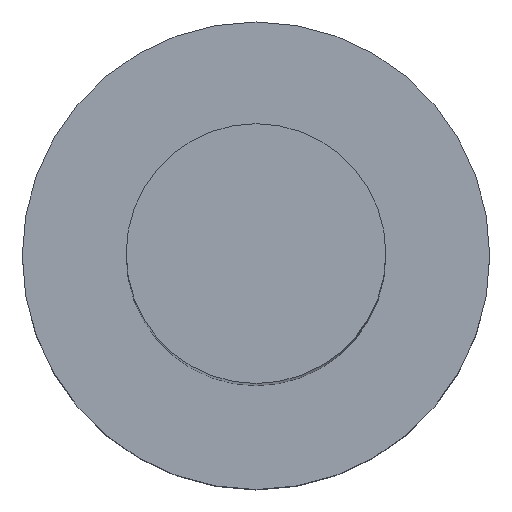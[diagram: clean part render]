
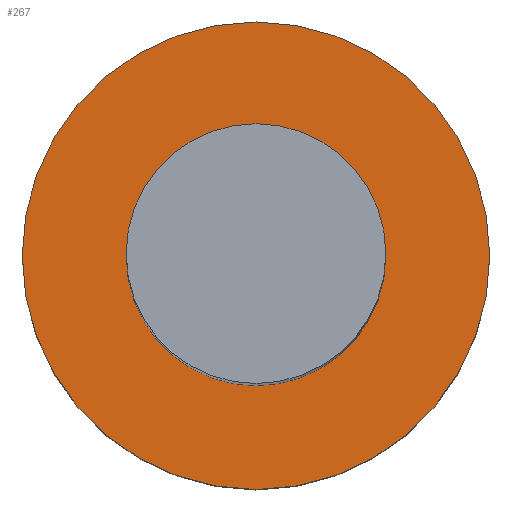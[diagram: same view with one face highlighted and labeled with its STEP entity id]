
A CAD part, top view. The second image highlights one B-rep face of the part: STEP entity #267.
In plain terms, the highlighted planar face has unit normal (0, 0, 1).
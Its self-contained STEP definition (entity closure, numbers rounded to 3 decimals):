
#24 = VERTEX_POINT('',#25);
#25 = CARTESIAN_POINT('',(18.75,-16.969,-14.));
#32 = CYLINDRICAL_SURFACE('',#33,2.25);
#33 = AXIS2_PLACEMENT_3D('',#34,#35,#36);
#34 = CARTESIAN_POINT('',(16.5,-16.969,-16.5));
#35 = DIRECTION('',(-0.,-0.,-1.));
#36 = DIRECTION('',(1.,0.,0.));
#51 = EDGE_CURVE('',#24,#24,#52,.T.);
#52 = SURFACE_CURVE('',#53,(#58,#65),.PCURVE_S1.);
#53 = CIRCLE('',#54,2.25);
#54 = AXIS2_PLACEMENT_3D('',#55,#56,#57);
#55 = CARTESIAN_POINT('',(16.5,-16.969,-14.));
#56 = DIRECTION('',(0.,0.,1.));
#57 = DIRECTION('',(1.,0.,0.));
#58 = PCURVE('',#32,#59);
#59 = DEFINITIONAL_REPRESENTATION('',(#60),#64);
#60 = LINE('',#61,#62);
#61 = CARTESIAN_POINT('',(-0.,-2.5));
#62 = VECTOR('',#63,1.);
#63 = DIRECTION('',(-1.,0.));
#64 = ( GEOMETRIC_REPRESENTATION_CONTEXT(2) 
PARAMETRIC_REPRESENTATION_CONTEXT() REPRESENTATION_CONTEXT('2D SPACE',''
  ) );
#65 = PCURVE('',#66,#71);
#66 = PLANE('',#67);
#67 = AXIS2_PLACEMENT_3D('',#68,#69,#70);
#68 = CARTESIAN_POINT('',(16.5,-16.969,-14.));
#69 = DIRECTION('',(0.,0.,1.));
#70 = DIRECTION('',(1.,0.,-0.));
#71 = DEFINITIONAL_REPRESENTATION('',(#72),#76);
#72 = CIRCLE('',#73,2.25);
#73 = AXIS2_PLACEMENT_2D('',#74,#75);
#74 = CARTESIAN_POINT('',(0.,0.));
#75 = DIRECTION('',(1.,0.));
#76 = ( GEOMETRIC_REPRESENTATION_CONTEXT(2) 
PARAMETRIC_REPRESENTATION_CONTEXT() REPRESENTATION_CONTEXT('2D SPACE',''
  ) );
#267 = ADVANCED_FACE('',(#268,#271),#66,.T.);
#268 = FACE_BOUND('',#269,.T.);
#269 = EDGE_LOOP('',(#270));
#270 = ORIENTED_EDGE('',*,*,#51,.T.);
#271 = FACE_BOUND('',#272,.T.);
#272 = EDGE_LOOP('',(#273));
#273 = ORIENTED_EDGE('',*,*,#274,.F.);
#274 = EDGE_CURVE('',#275,#275,#277,.T.);
#275 = VERTEX_POINT('',#276);
#276 = CARTESIAN_POINT('',(17.75,-16.969,-14.));
#277 = SURFACE_CURVE('',#278,(#283,#290),.PCURVE_S1.);
#278 = CIRCLE('',#279,1.25);
#279 = AXIS2_PLACEMENT_3D('',#280,#281,#282);
#280 = CARTESIAN_POINT('',(16.5,-16.969,-14.));
#281 = DIRECTION('',(0.,0.,1.));
#282 = DIRECTION('',(1.,0.,0.));
#283 = PCURVE('',#66,#284);
#284 = DEFINITIONAL_REPRESENTATION('',(#285),#289);
#285 = CIRCLE('',#286,1.25);
#286 = AXIS2_PLACEMENT_2D('',#287,#288);
#287 = CARTESIAN_POINT('',(0.,0.));
#288 = DIRECTION('',(1.,0.));
#289 = ( GEOMETRIC_REPRESENTATION_CONTEXT(2) 
PARAMETRIC_REPRESENTATION_CONTEXT() REPRESENTATION_CONTEXT('2D SPACE',''
  ) );
#290 = PCURVE('',#291,#296);
#291 = CYLINDRICAL_SURFACE('',#292,1.25);
#292 = AXIS2_PLACEMENT_3D('',#293,#294,#295);
#293 = CARTESIAN_POINT('',(16.5,-16.969,-14.));
#294 = DIRECTION('',(-0.,-0.,-1.));
#295 = DIRECTION('',(1.,0.,0.));
#296 = DEFINITIONAL_REPRESENTATION('',(#297),#301);
#297 = LINE('',#298,#299);
#298 = CARTESIAN_POINT('',(-0.,0.));
#299 = VECTOR('',#300,1.);
#300 = DIRECTION('',(-1.,0.));
#301 = ( GEOMETRIC_REPRESENTATION_CONTEXT(2) 
PARAMETRIC_REPRESENTATION_CONTEXT() REPRESENTATION_CONTEXT('2D SPACE',''
  ) );
